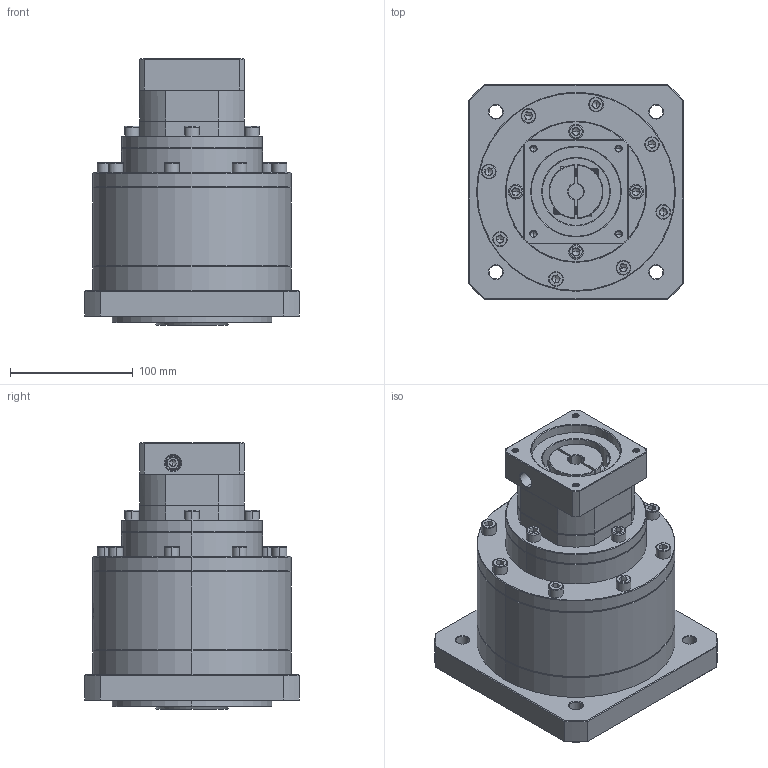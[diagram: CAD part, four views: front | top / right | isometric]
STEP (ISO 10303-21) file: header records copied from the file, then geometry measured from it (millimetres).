
FILE_DESCRIPTION (( 'STEP AP214' ), '1' );
FILE_NAME ('ZF160A-K35-L3-P2-12.7-73-69.6X69.6-M6.step', '2023-09-03T08:16:11', ( '' ), ( '' ), 'SwSTEP 2.0', 'SolidWorks 2016', '' );
FILE_SCHEMA (( 'AUTOMOTIVE_DESIGN' ));
Length unit declared in the file: millimetre
Products named in the file (1): ZF160A-K35-L3-P2-12.7-73-69.6X69.6-M6
Bounding box: 175 x 175 x 217.2 mm (x, y, z)
Volume: 3248030.1 mm3; surface area: 221938.4 mm2
Topology: 5 solids, 6 shells, 2357 faces, 6232 edges, 3995 vertices
Faces by surface type: plane 1138, cylinder 430, bspline 390, cone 340, torus 59
Entity records: 123329 total; most frequent: CARTESIAN_POINT 43951, ORIENTED_EDGE 12360, DIRECTION 9427, EDGE_CURVE 6180, VERTEX_POINT 3995, LINE 3321, VECTOR 3321, AXIS2_PLACEMENT_3D 3053
